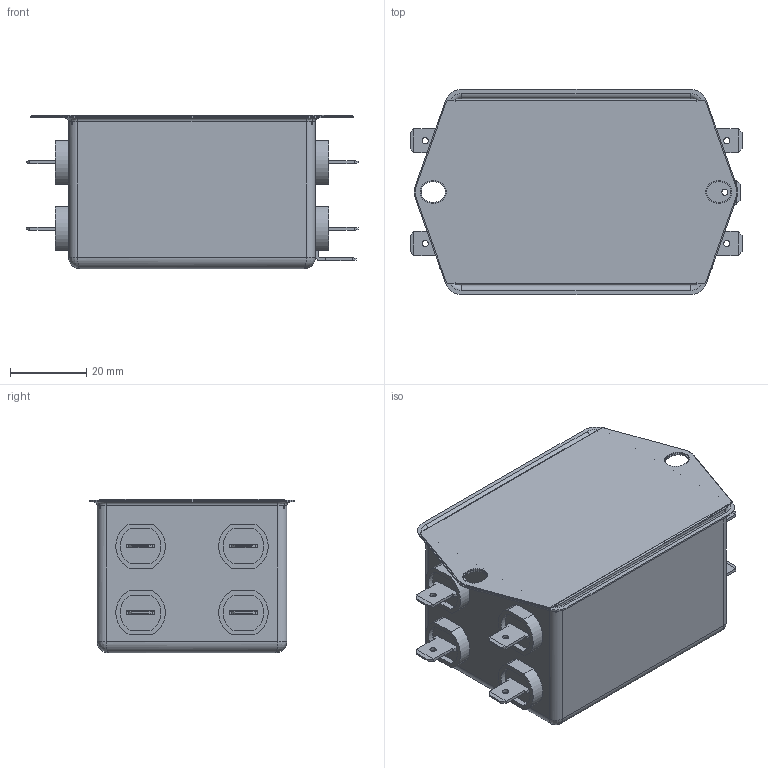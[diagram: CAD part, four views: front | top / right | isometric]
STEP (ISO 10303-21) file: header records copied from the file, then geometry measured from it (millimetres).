
FILE_DESCRIPTION((''),'2;1');
FILE_NAME('K:\Development\Product_FN\FN355\FN355-10-05 (281-907)\1_technical_file\3_technical_drawing\3d\FN355-10-05.stp','2012-12-13T09:39:13',('Fiona.chen'),(''),'Autodesk Inventor 2010','Autodesk Inventor 2010','');
FILE_SCHEMA(('AUTOMOTIVE_DESIGN { 1 0 10303 214 1 1 1 1 }'));
Length unit declared in the file: millimetre
Products named in the file (1): FN355-10-05_包覆面提取_2
Bounding box: 87.2 x 54 x 40.3 mm (x, y, z)
Volume: 128399 mm3; surface area: 27416.4 mm2
Topology: 1 solids, 9 shells, 892 faces, 2529 edges, 1642 vertices
Faces by surface type: plane 666, cylinder 210, bspline 12, torus 4
Full cylindrical faces by diameter (mm): 1.6 x1, 1.65 x8
Entity records: 30062 total; most frequent: CARTESIAN_POINT 5581, ORIENTED_EDGE 5032, DIRECTION 4838, EDGE_CURVE 2516, VECTOR 1916, LINE 1916, VERTEX_POINT 1642, AXIS2_PLACEMENT_3D 1461
